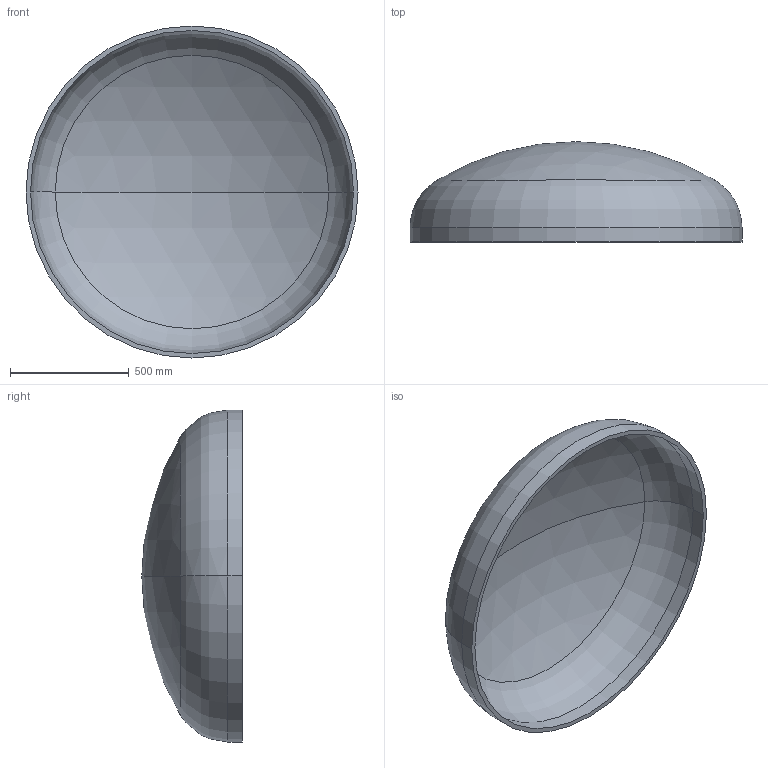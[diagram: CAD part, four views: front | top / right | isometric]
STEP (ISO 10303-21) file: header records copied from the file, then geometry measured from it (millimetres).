
FILE_DESCRIPTION (( 'STEP AP203' ), '1' );
FILE_NAME ('DIN 28013 Korbbogenform_-_Boden DIN 28013 - 1400 x 60 - I - s=19.step', '2016-07-01T10:10:41', ( '' ), ( '' ), 'SwSTEP 2.0', 'SolidWorks 2013', '' );
FILE_SCHEMA (( 'CONFIG_CONTROL_DESIGN' ));
Length unit declared in the file: millimetre
Products named in the file (1): DIN 28013 Korbbogenform_-_Boden DIN 28013 - 1400 x 60 - I - s=19
Bounding box: 1400 x 423.2 x 1400 mm (x, y, z)
Volume: 44712487.4 mm3; surface area: 4789764.3 mm2
Topology: 1 solids, 1 shells, 13 faces, 24 edges, 14 vertices
Faces by surface type: torus 4, cylinder 4, sphere 4, plane 1
Entity records: 407 total; most frequent: DIRECTION 72, CARTESIAN_POINT 52, ORIENTED_EDGE 48, AXIS2_PLACEMENT_3D 34, EDGE_CURVE 24, CIRCLE 20, EDGE_LOOP 14, VERTEX_POINT 14
